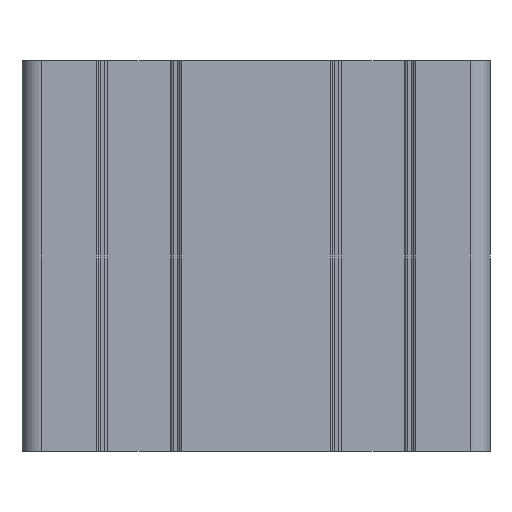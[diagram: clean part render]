
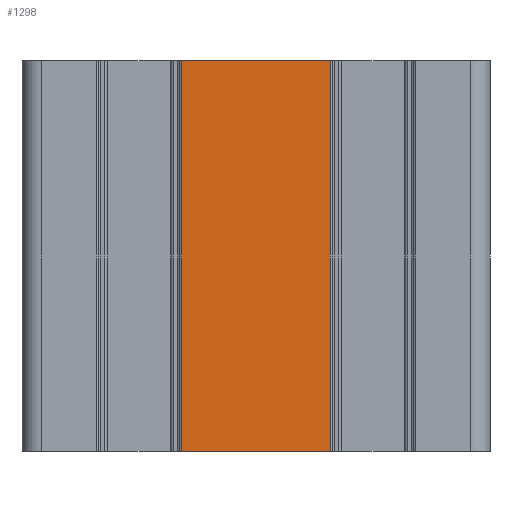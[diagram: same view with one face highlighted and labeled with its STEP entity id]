
A CAD part, front view. The second image highlights one B-rep face of the part: STEP entity #1298.
In plain terms, the highlighted planar face has unit normal (0, -1, 0).
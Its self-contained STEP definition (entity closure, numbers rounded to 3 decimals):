
#39 = EDGE_CURVE ( 'NONE', #8090, #3091, #4861, .T. ) ;
#611 = CARTESIAN_POINT ( 'NONE',  ( 9.5, -15., 50. ) ) ;
#1298 = ADVANCED_FACE ( 'NONE', ( #3743 ), #6258, .F. ) ;
#1733 = DIRECTION ( 'NONE',  ( 0., 0., -1. ) ) ;
#1817 = CARTESIAN_POINT ( 'NONE',  ( 9.5, -15., 50. ) ) ;
#1954 = CARTESIAN_POINT ( 'NONE',  ( -9.5, -15., 50. ) ) ;
#1983 = VECTOR ( 'NONE', #7961, 1000. ) ;
#2255 = VERTEX_POINT ( 'NONE', #6807 ) ;
#2282 = ORIENTED_EDGE ( 'NONE', *, *, #4639, .F. ) ;
#2302 = AXIS2_PLACEMENT_3D ( 'NONE', #611, #3125, #5641 ) ;
#2617 = EDGE_CURVE ( 'NONE', #2726, #3091, #2924, .T. ) ;
#2669 = ORIENTED_EDGE ( 'NONE', *, *, #2617, .T. ) ;
#2726 = VERTEX_POINT ( 'NONE', #5609 ) ;
#2765 = LINE ( 'NONE', #5286, #6114 ) ;
#2924 = LINE ( 'NONE', #5448, #1983 ) ;
#3091 = VERTEX_POINT ( 'NONE', #4856 ) ;
#3125 = DIRECTION ( 'NONE',  ( 0., 1., 0. ) ) ;
#3728 = EDGE_CURVE ( 'NONE', #2255, #2726, #7599, .T. ) ;
#3743 = FACE_OUTER_BOUND ( 'NONE', #6671, .T. ) ;
#3865 = ORIENTED_EDGE ( 'NONE', *, *, #39, .F. ) ;
#3879 = ORIENTED_EDGE ( 'NONE', *, *, #3728, .T. ) ;
#4470 = DIRECTION ( 'NONE',  ( 0., 0., -1. ) ) ;
#4639 = EDGE_CURVE ( 'NONE', #2255, #8090, #2765, .T. ) ;
#4856 = CARTESIAN_POINT ( 'NONE',  ( 9.5, -15., 0. ) ) ;
#4861 = LINE ( 'NONE', #7371, #6980 ) ;
#4905 = VECTOR ( 'NONE', #4470, 1000. ) ;
#5286 = CARTESIAN_POINT ( 'NONE',  ( 9.5, -15., 50. ) ) ;
#5448 = CARTESIAN_POINT ( 'NONE',  ( 9.5, -15., 0. ) ) ;
#5609 = CARTESIAN_POINT ( 'NONE',  ( -9.5, -15., 0. ) ) ;
#5641 = DIRECTION ( 'NONE',  ( 0., 0., 1. ) ) ;
#6114 = VECTOR ( 'NONE', #7802, 1000. ) ;
#6258 = PLANE ( 'NONE',  #2302 ) ;
#6671 = EDGE_LOOP ( 'NONE', ( #2669, #3865, #2282, #3879 ) ) ;
#6807 = CARTESIAN_POINT ( 'NONE',  ( -9.5, -15., 50. ) ) ;
#6980 = VECTOR ( 'NONE', #1733, 1000. ) ;
#7371 = CARTESIAN_POINT ( 'NONE',  ( 9.5, -15., 50. ) ) ;
#7599 = LINE ( 'NONE', #1954, #4905 ) ;
#7802 = DIRECTION ( 'NONE',  ( 1., 0., 0. ) ) ;
#7961 = DIRECTION ( 'NONE',  ( 1., 0., 0. ) ) ;
#8090 = VERTEX_POINT ( 'NONE', #1817 ) ;
